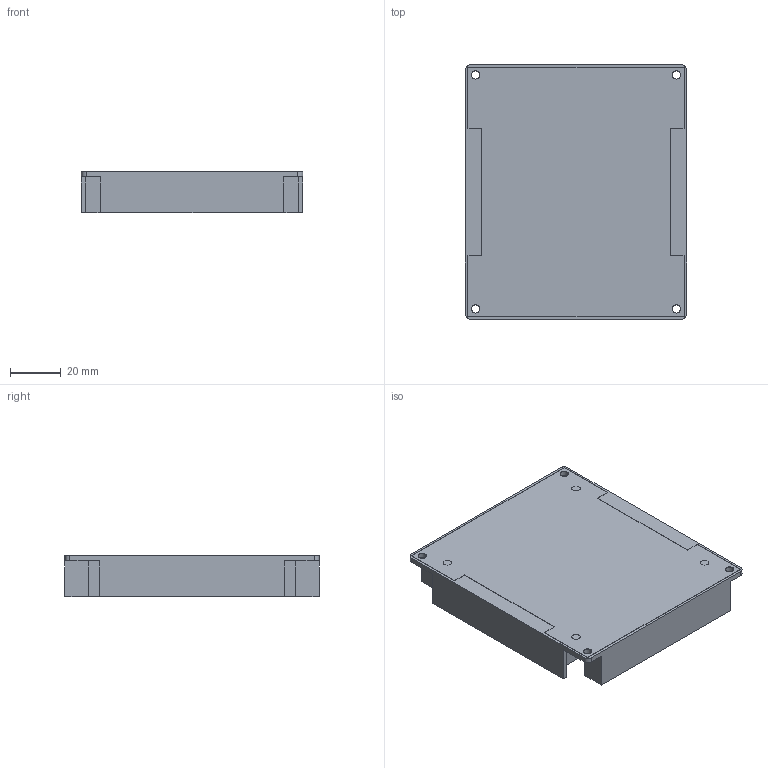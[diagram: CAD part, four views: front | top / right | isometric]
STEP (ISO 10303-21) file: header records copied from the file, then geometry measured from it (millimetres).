
FILE_DESCRIPTION (( 'STEP AP214' ), '1' );
FILE_NAME ('CTIA-00197(0.03) Assembly for Website.STEP', '2020-04-03T12:58:37', ( '' ), ( '' ), 'SwSTEP 2.0', 'SolidWorks 2019', '' );
FILE_SCHEMA (( 'AUTOMOTIVE_DESIGN' ));
Length unit declared in the file: inch
Products named in the file (1): CTIA-00197(0.03) Assembly for Website
Bounding box: 87 x 100 x 16.13 mm (x, y, z)
Volume: 128271.1 mm3; surface area: 25000.3 mm2
Topology: 1 solids, 1 shells, 83 faces, 216 edges, 144 vertices
Faces by surface type: plane 55, cylinder 28
Entity records: 3681 total; most frequent: CARTESIAN_POINT 444, DIRECTION 440, ORIENTED_EDGE 432, EDGE_CURVE 216, VECTOR 160, LINE 160, VERTEX_POINT 144, AXIS2_PLACEMENT_3D 140
